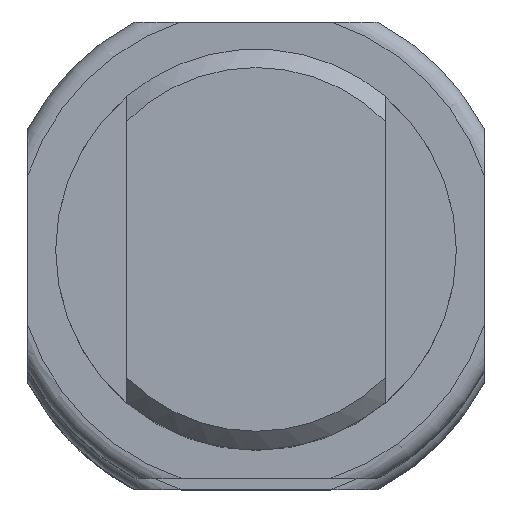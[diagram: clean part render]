
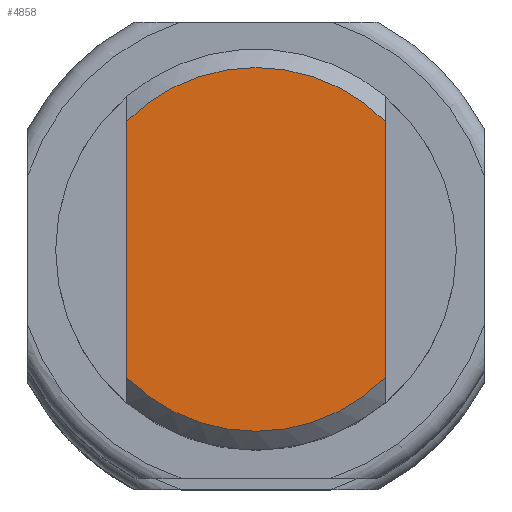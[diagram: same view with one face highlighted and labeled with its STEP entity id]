
A CAD part, top view. The second image highlights one B-rep face of the part: STEP entity #4858.
In plain terms, the highlighted planar face has unit normal (0, 0, 1) as drawn and (1, 0, 0) by its records, which use the part's own axes.
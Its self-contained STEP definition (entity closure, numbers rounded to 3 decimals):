
#106 = LINE ( 'NONE', #2378, #6908 ) ;
#108 = VERTEX_POINT ( 'NONE', #6973 ) ;
#202 = ORIENTED_EDGE ( 'NONE', *, *, #3270, .T. ) ;
#296 = DIRECTION ( 'NONE',  ( 0., 0., 1. ) ) ;
#349 = EDGE_CURVE ( 'NONE', #4392, #108, #3365, .T. ) ;
#551 = EDGE_LOOP ( 'NONE', ( #202, #3860, #2923, #5557 ) ) ;
#658 = EDGE_CURVE ( 'NONE', #3115, #671, #106, .T. ) ;
#671 = VERTEX_POINT ( 'NONE', #3387 ) ;
#699 = CARTESIAN_POINT ( 'NONE',  ( 43., 0., 0. ) ) ;
#1091 = CARTESIAN_POINT ( 'NONE',  ( 43., -12.858, 7. ) ) ;
#1755 = DIRECTION ( 'NONE',  ( 0., 1., 0. ) ) ;
#1883 = DIRECTION ( 'NONE',  ( 0., 0., 1. ) ) ;
#2378 = CARTESIAN_POINT ( 'NONE',  ( 43., -12.858, -7. ) ) ;
#2522 = DIRECTION ( 'NONE',  ( 1., 0., 0. ) ) ;
#2707 = CARTESIAN_POINT ( 'NONE',  ( 43., 6.93, -7. ) ) ;
#2923 = ORIENTED_EDGE ( 'NONE', *, *, #6706, .T. ) ;
#2957 = DIRECTION ( 'NONE',  ( 1., 0., 0. ) ) ;
#3018 = CARTESIAN_POINT ( 'NONE',  ( 43., -6.93, 7. ) ) ;
#3105 = CIRCLE ( 'NONE', #4656, 9.85 ) ;
#3115 = VERTEX_POINT ( 'NONE', #2707 ) ;
#3270 = EDGE_CURVE ( 'NONE', #3115, #108, #3541, .T. ) ;
#3365 = LINE ( 'NONE', #1091, #5202 ) ;
#3387 = CARTESIAN_POINT ( 'NONE',  ( 43., -6.93, -7. ) ) ;
#3541 = CIRCLE ( 'NONE', #5459, 9.85 ) ;
#3860 = ORIENTED_EDGE ( 'NONE', *, *, #349, .F. ) ;
#4349 = PLANE ( 'NONE',  #6894 ) ;
#4392 = VERTEX_POINT ( 'NONE', #3018 ) ;
#4647 = DIRECTION ( 'NONE',  ( 0., -1., 0. ) ) ;
#4656 = AXIS2_PLACEMENT_3D ( 'NONE', #5356, #2522, #296 ) ;
#4858 = ADVANCED_FACE ( 'NONE', ( #5468 ), #4349, .F. ) ;
#4876 = DIRECTION ( 'NONE',  ( -1., 0., 0. ) ) ;
#4985 = CARTESIAN_POINT ( 'NONE',  ( 43., 10.85, 0. ) ) ;
#5202 = VECTOR ( 'NONE', #1755, 1000. ) ;
#5356 = CARTESIAN_POINT ( 'NONE',  ( 43., 0., 0. ) ) ;
#5459 = AXIS2_PLACEMENT_3D ( 'NONE', #699, #2957, #1883 ) ;
#5468 = FACE_OUTER_BOUND ( 'NONE', #551, .T. ) ;
#5557 = ORIENTED_EDGE ( 'NONE', *, *, #658, .F. ) ;
#6614 = DIRECTION ( 'NONE',  ( 0., 0., 1. ) ) ;
#6706 = EDGE_CURVE ( 'NONE', #4392, #671, #3105, .T. ) ;
#6894 = AXIS2_PLACEMENT_3D ( 'NONE', #4985, #4876, #6614 ) ;
#6908 = VECTOR ( 'NONE', #4647, 1000. ) ;
#6973 = CARTESIAN_POINT ( 'NONE',  ( 43., 6.93, 7. ) ) ;
